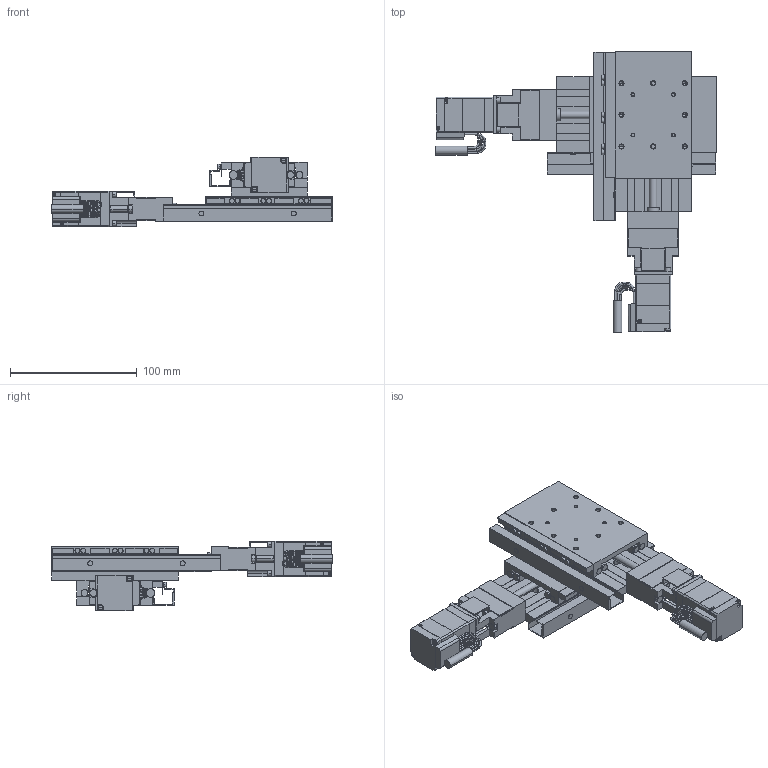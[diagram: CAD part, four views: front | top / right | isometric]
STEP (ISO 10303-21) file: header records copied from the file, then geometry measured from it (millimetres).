
FILE_DESCRIPTION(('STEP AP203'),'1');
FILE_NAME('C:/3D-Trans/3D_PMG650T-L□-PA+240122.step','2024-03-14T08:31:31',(' '),(' '),'Spatial InterOp 3D',' ',' ');
FILE_SCHEMA(('CONFIG_CONTROL_DESIGN'));
Length unit declared in the file: millimetre
Products named in the file (13): 1; 2; 3; 4; 5; 6; 7; 8; 9; 10; 11; 12; 13
Bounding box: 221.9 x 221.9 x 55 mm (x, y, z)
Volume: 375982.1 mm3; surface area: 169091.3 mm2
Topology: 13 solids, 13 shells, 1468 faces, 3846 edges, 2426 vertices
Faces by surface type: plane 746, cylinder 438, cone 156, torus 128
Entity records: 46032 total; most frequent: CARTESIAN_POINT 8213, DIRECTION 8154, ORIENTED_EDGE 7580, EDGE_CURVE 3790, AXIS2_PLACEMENT_3D 2911, VERTEX_POINT 2426, LINE 2332, VECTOR 2332
